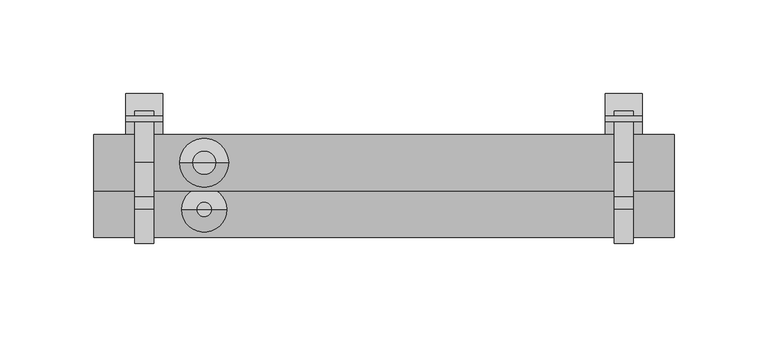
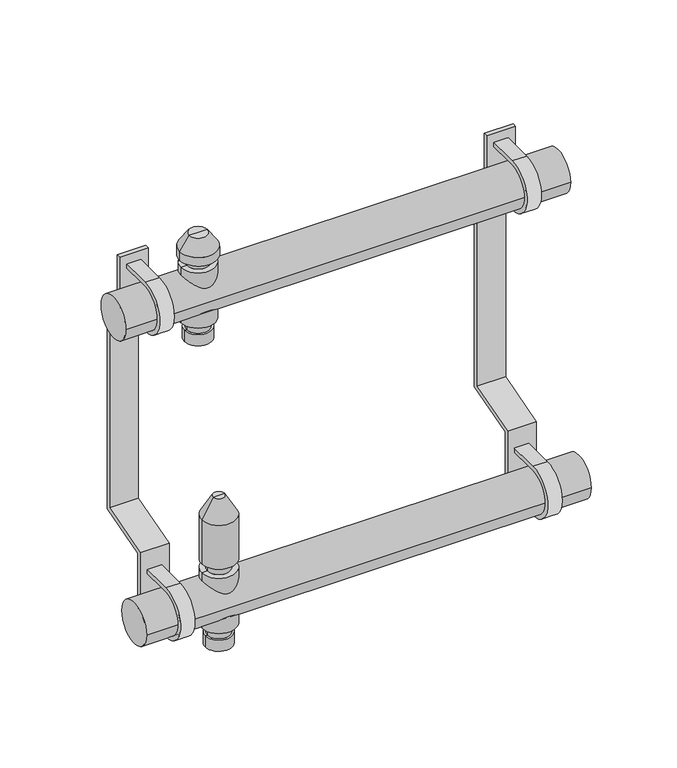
"""IFC4 building model written with IfcOpenShell, lengths in millimetres: valve geometry, PL AT_Manifold_FT-EV : 05 circuits."""

from ifc_helpers import new_model, si_unit, point, frame, frame_2d, origin, origin_2d, place, context, project, spatial, polyline, circle_curve, trimmed, segment, composite_curve, outline, extrude, source, transform, mapped, element, save
from ifc_brep_helpers import plane_surface, cylinder_surface, revolved_surface, advanced_brep


def valve_64aa8ca1(model_context):
    return source(origin(), model_context, "Body", "SolidModel", [
        advanced_brep(
        [(32.5, 25.0, 174.88733), (51.5, 25.0, 174.88733), (42.0, 25.0, 174.88733), (32.5, 25.0, 182.9630354), (51.5, 25.0, 182.9630354), (34.0, 25.0, 182.9630354), (50.0, 25.0, 182.9630354), (34.0, 25.0, 189.669747), (50.0, 25.0, 189.669747), (30.0, 25.0, 189.669747), (54.0, 25.0, 189.669747), (30.0, 25.0, 230.330253), (54.0, 25.0, 230.330253), (34.0, 25.0, 230.330253), (50.0, 25.0, 230.330253), (34.0, 25.0, 236.0474786), (50.0, 25.0, 236.0474786), (29.0, 25.0, 236.0474786), (55.0, 25.0, 236.0474786), (29.0, 25.0, 242.337955), (55.0, 25.0, 242.337955), (35.6551779, 25.0, 251.842534), (48.3448221, 25.0, 251.842534), (42.0, 25.0, 251.842534)],
        [
            (0, 1, circle_curve(frame((42.0, 25.0, 174.88733), z_axis=(0.0, 0.0, -1.0), x_axis=(1.0, 0.0, 0.0)), 9.5)),
            (1, 2),
            (2, 0),
            (1, 0, circle_curve(frame((42.0, 25.0, 174.88733), z_axis=(0.0, 0.0, -1.0), x_axis=(1.0, 0.0, 0.0)), 9.5)),
            (3, 4, circle_curve(frame((42.0, 25.0, 182.9630354), z_axis=(0.0, 0.0, -1.0), x_axis=(1.0, 0.0, 0.0)), 9.5)),
            (4, 1),
            (0, 3),
            (4, 3, circle_curve(frame((42.0, 25.0, 182.9630354), z_axis=(0.0, 0.0, -1.0), x_axis=(1.0, 0.0, 0.0)), 9.5)),
            (5, 6, circle_curve(frame((42.0, 25.0, 182.9630354), z_axis=(0.0, 0.0, -1.0), x_axis=(1.0, 0.0, 0.0)), 8.0)),
            (6, 4),
            (3, 5),
            (6, 5, circle_curve(frame((42.0, 25.0, 182.9630354), z_axis=(0.0, 0.0, -1.0), x_axis=(1.0, 0.0, 0.0)), 8.0)),
            (7, 8, circle_curve(frame((42.0, 25.0, 189.669747), z_axis=(0.0, 0.0, -1.0), x_axis=(1.0, 0.0, 0.0)), 8.0)),
            (8, 6),
            (5, 7),
            (8, 7, circle_curve(frame((42.0, 25.0, 189.669747), z_axis=(0.0, 0.0, -1.0), x_axis=(1.0, 0.0, 0.0)), 8.0)),
            (9, 10, circle_curve(frame((42.0, 25.0, 189.669747), z_axis=(0.0, 0.0, -1.0), x_axis=(1.0, 0.0, 0.0)), 12.0)),
            (10, 8),
            (7, 9),
            (10, 9, circle_curve(frame((42.0, 25.0, 189.669747), z_axis=(0.0, 0.0, -1.0), x_axis=(1.0, 0.0, 0.0)), 12.0)),
            (11, 12, circle_curve(frame((42.0, 25.0, 230.330253), z_axis=(0.0, 0.0, -1.0), x_axis=(1.0, 0.0, 0.0)), 12.0)),
            (12, 10),
            (9, 11),
            (12, 11, circle_curve(frame((42.0, 25.0, 230.330253), z_axis=(0.0, 0.0, -1.0), x_axis=(1.0, 0.0, 0.0)), 12.0)),
            (13, 14, circle_curve(frame((42.0, 25.0, 230.330253), z_axis=(0.0, 0.0, -1.0), x_axis=(1.0, 0.0, 0.0)), 8.0)),
            (14, 12),
            (11, 13),
            (14, 13, circle_curve(frame((42.0, 25.0, 230.330253), z_axis=(0.0, 0.0, -1.0), x_axis=(1.0, 0.0, 0.0)), 8.0)),
            (15, 16, circle_curve(frame((42.0, 25.0, 236.0474786), z_axis=(0.0, 0.0, -1.0), x_axis=(1.0, 0.0, 0.0)), 8.0)),
            (16, 14),
            (13, 15),
            (16, 15, circle_curve(frame((42.0, 25.0, 236.0474786), z_axis=(0.0, 0.0, -1.0), x_axis=(1.0, 0.0, 0.0)), 8.0)),
            (17, 18, circle_curve(frame((42.0, 25.0, 236.0474786), z_axis=(0.0, 0.0, -1.0), x_axis=(1.0, 0.0, 0.0)), 13.0)),
            (18, 16),
            (15, 17),
            (18, 17, circle_curve(frame((42.0, 25.0, 236.0474786), z_axis=(0.0, 0.0, -1.0), x_axis=(1.0, 0.0, 0.0)), 13.0)),
            (19, 20, circle_curve(frame((42.0, 25.0, 242.337955), z_axis=(0.0, 0.0, -1.0), x_axis=(1.0, 0.0, 0.0)), 13.0)),
            (20, 18),
            (17, 19),
            (20, 19, circle_curve(frame((42.0, 25.0, 242.337955), z_axis=(0.0, 0.0, -1.0), x_axis=(1.0, 0.0, 0.0)), 13.0)),
            (21, 22, circle_curve(frame((42.0, 25.0, 251.842534), z_axis=(0.0, 0.0, -1.0), x_axis=(1.0, 0.0, 0.0)), 6.3448221)),
            (22, 20),
            (19, 21),
            (22, 21, circle_curve(frame((42.0, 25.0, 251.842534), z_axis=(0.0, 0.0, -1.0), x_axis=(1.0, 0.0, 0.0)), 6.3448221)),
            (23, 22),
            (21, 23),
        ],
        [
            plane_surface(frame((42.0, 25.0, 174.88733), z_axis=(0.0, 0.0, -1.0), x_axis=(1.0, 0.0, 0.0))),
            cylinder_surface(frame((42.0, 25.0, 247.7026565), z_axis=(0.0, 0.0, 1.0), x_axis=(1.0, 0.0, 0.0)), 9.5),
            plane_surface(frame((42.0, 25.0, 182.9630354), z_axis=(0.0, 0.0, 1.0), x_axis=(1.0, 0.0, 0.0))),
            cylinder_surface(frame((42.0, 25.0, 247.7026565), z_axis=(0.0, 0.0, 1.0), x_axis=(1.0, 0.0, 0.0)), 8.0),
            plane_surface(frame((42.0, 25.0, 189.669747), z_axis=(0.0, 0.0, -1.0), x_axis=(1.0, 0.0, 0.0))),
            cylinder_surface(frame((42.0, 25.0, 247.7026565), z_axis=(0.0, 0.0, 1.0), x_axis=(1.0, 0.0, 0.0)), 12.0),
            plane_surface(frame((42.0, 25.0, 230.330253), z_axis=(0.0, 0.0, 1.0), x_axis=(1.0, 0.0, 0.0))),
            plane_surface(frame((42.0, 25.0, 236.0474786), z_axis=(0.0, 0.0, -1.0), x_axis=(1.0, 0.0, 0.0))),
            cylinder_surface(frame((42.0, 25.0, 247.7026565), z_axis=(0.0, 0.0, 1.0), x_axis=(1.0, 0.0, 0.0)), 13.0),
            revolved_surface(polyline([(55.0, 25.0, 242.337955), (48.3448221, 25.0, 251.842534)]), (42.0, 25.0, 247.7026565), (0.0, 0.0, 1.0)),
            plane_surface(frame((42.0, 25.0, 251.842534), z_axis=(0.0, 0.0, 1.0), x_axis=(1.0, 0.0, 0.0))),
        ],
        [
            (0, [[1, 2, 3]]),
            (0, [[4, -3, -2]]),
            (1, [[5, 6, -1, 7]]),
            (1, [[8, -7, -4, -6]]),
            (2, [[9, 10, -5, 11]]),
            (2, [[12, -11, -8, -10]]),
            (3, [[13, 14, -9, 15]]),
            (3, [[16, -15, -12, -14]]),
            (4, [[17, 18, -13, 19]]),
            (4, [[20, -19, -16, -18]]),
            (5, [[21, 22, -17, 23]]),
            (5, [[24, -23, -20, -22]]),
            (6, [[25, 26, -21, 27]]),
            (6, [[28, -27, -24, -26]]),
            (3, [[29, 30, -25, 31]]),
            (3, [[32, -31, -28, -30]]),
            (7, [[33, 34, -29, 35]]),
            (7, [[36, -35, -32, -34]]),
            (8, [[37, 38, -33, 39]]),
            (8, [[40, -39, -36, -38]]),
            (9, [[41, 42, -37, 43]]),
            (9, [[44, -43, -40, -42]]),
            (10, [[45, -41, 46]]),
            (10, [[-46, -44, -45]]),
        ],
    ),
        advanced_brep(
        [(32.5, 0.0, -35.11267), (51.5, 0.0, -35.11267), (42.0, 0.0, -35.11267), (32.5, 0.0, -27.0369646), (51.5, 0.0, -27.0369646), (34.0, 0.0, -27.0369646), (50.0, 0.0, -27.0369646), (34.0, 0.0, -20.330253), (50.0, 0.0, -20.330253), (30.0, 0.0, -20.330253), (54.0, 0.0, -20.330253), (30.0, 0.0, 20.330253), (54.0, 0.0, 20.330253), (34.0, 0.0, 20.330253), (50.0, 0.0, 20.330253), (34.0, 0.0, 27.0474786), (50.0, 0.0, 27.0474786), (30.0, 0.0, 27.0474786), (54.0, 0.0, 27.0474786), (30.0, 0.0, 59.4084325), (54.0, 0.0, 59.4084325), (38.0, 0.0, 73.264839), (46.0, 0.0, 73.264839), (42.0, 0.0, 73.264839)],
        [
            (0, 1, circle_curve(frame((42.0, 0.0, -35.11267), z_axis=(0.0, 0.0, -1.0), x_axis=(1.0, 0.0, 0.0)), 9.5)),
            (1, 2),
            (2, 0),
            (1, 0, circle_curve(frame((42.0, 0.0, -35.11267), z_axis=(0.0, 0.0, -1.0), x_axis=(1.0, 0.0, 0.0)), 9.5)),
            (3, 4, circle_curve(frame((42.0, 0.0, -27.0369646), z_axis=(0.0, 0.0, -1.0), x_axis=(1.0, 0.0, 0.0)), 9.5)),
            (4, 1),
            (0, 3),
            (4, 3, circle_curve(frame((42.0, 0.0, -27.0369646), z_axis=(0.0, 0.0, -1.0), x_axis=(1.0, 0.0, 0.0)), 9.5)),
            (5, 6, circle_curve(frame((42.0, 0.0, -27.0369646), z_axis=(0.0, 0.0, -1.0), x_axis=(1.0, 0.0, 0.0)), 8.0)),
            (6, 4),
            (3, 5),
            (6, 5, circle_curve(frame((42.0, 0.0, -27.0369646), z_axis=(0.0, 0.0, -1.0), x_axis=(1.0, 0.0, 0.0)), 8.0)),
            (7, 8, circle_curve(frame((42.0, 0.0, -20.330253), z_axis=(0.0, 0.0, -1.0), x_axis=(1.0, 0.0, 0.0)), 8.0)),
            (8, 6),
            (5, 7),
            (8, 7, circle_curve(frame((42.0, 0.0, -20.330253), z_axis=(0.0, 0.0, -1.0), x_axis=(1.0, 0.0, 0.0)), 8.0)),
            (9, 10, circle_curve(frame((42.0, 0.0, -20.330253), z_axis=(0.0, 0.0, -1.0), x_axis=(1.0, 0.0, 0.0)), 12.0)),
            (10, 8),
            (7, 9),
            (10, 9, circle_curve(frame((42.0, 0.0, -20.330253), z_axis=(0.0, 0.0, -1.0), x_axis=(1.0, 0.0, 0.0)), 12.0)),
            (11, 12, circle_curve(frame((42.0, 0.0, 20.330253), z_axis=(0.0, 0.0, -1.0), x_axis=(1.0, 0.0, 0.0)), 12.0)),
            (12, 10),
            (9, 11),
            (12, 11, circle_curve(frame((42.0, 0.0, 20.330253), z_axis=(0.0, 0.0, -1.0), x_axis=(1.0, 0.0, 0.0)), 12.0)),
            (13, 14, circle_curve(frame((42.0, 0.0, 20.330253), z_axis=(0.0, 0.0, -1.0), x_axis=(1.0, 0.0, 0.0)), 8.0)),
            (14, 12),
            (11, 13),
            (14, 13, circle_curve(frame((42.0, 0.0, 20.330253), z_axis=(0.0, 0.0, -1.0), x_axis=(1.0, 0.0, 0.0)), 8.0)),
            (15, 16, circle_curve(frame((42.0, 0.0, 27.0474786), z_axis=(0.0, 0.0, -1.0), x_axis=(1.0, 0.0, 0.0)), 8.0)),
            (16, 14),
            (13, 15),
            (16, 15, circle_curve(frame((42.0, 0.0, 27.0474786), z_axis=(0.0, 0.0, -1.0), x_axis=(1.0, 0.0, 0.0)), 8.0)),
            (17, 18, circle_curve(frame((42.0, 0.0, 27.0474786), z_axis=(0.0, 0.0, -1.0), x_axis=(1.0, 0.0, 0.0)), 12.0)),
            (18, 16),
            (15, 17),
            (18, 17, circle_curve(frame((42.0, 0.0, 27.0474786), z_axis=(0.0, 0.0, -1.0), x_axis=(1.0, 0.0, 0.0)), 12.0)),
            (19, 20, circle_curve(frame((42.0, 0.0, 59.4084325), z_axis=(0.0, 0.0, -1.0), x_axis=(1.0, 0.0, 0.0)), 12.0)),
            (20, 18),
            (17, 19),
            (20, 19, circle_curve(frame((42.0, 0.0, 59.4084325), z_axis=(0.0, 0.0, -1.0), x_axis=(1.0, 0.0, 0.0)), 12.0)),
            (21, 22, circle_curve(frame((42.0, 0.0, 73.264839), z_axis=(0.0, 0.0, -1.0), x_axis=(1.0, 0.0, 0.0)), 4.0)),
            (22, 20),
            (19, 21),
            (22, 21, circle_curve(frame((42.0, 0.0, 73.264839), z_axis=(0.0, 0.0, -1.0), x_axis=(1.0, 0.0, 0.0)), 4.0)),
            (23, 22),
            (21, 23),
        ],
        [
            plane_surface(frame((42.0, 0.0, -35.11267), z_axis=(0.0, 0.0, -1.0), x_axis=(1.0, 0.0, 0.0))),
            cylinder_surface(frame((42.0, 0.0, 58.264839), z_axis=(0.0, 0.0, 1.0), x_axis=(1.0, 0.0, 0.0)), 9.5),
            plane_surface(frame((42.0, 0.0, -27.0369646), z_axis=(0.0, 0.0, 1.0), x_axis=(1.0, 0.0, 0.0))),
            cylinder_surface(frame((42.0, 0.0, 58.264839), z_axis=(0.0, 0.0, 1.0), x_axis=(1.0, 0.0, 0.0)), 8.0),
            plane_surface(frame((42.0, 0.0, -20.330253), z_axis=(0.0, 0.0, -1.0), x_axis=(1.0, 0.0, 0.0))),
            cylinder_surface(frame((42.0, 0.0, 58.264839), z_axis=(0.0, 0.0, 1.0), x_axis=(1.0, 0.0, 0.0)), 12.0),
            plane_surface(frame((42.0, 0.0, 20.330253), z_axis=(0.0, 0.0, 1.0), x_axis=(1.0, 0.0, 0.0))),
            plane_surface(frame((42.0, 0.0, 27.0474786), z_axis=(0.0, 0.0, -1.0), x_axis=(1.0, 0.0, 0.0))),
            revolved_surface(polyline([(54.0, 0.0, 59.4084325), (46.0, 0.0, 73.264839)]), (42.0, 0.0, 58.264839), (0.0, 0.0, 1.0)),
            plane_surface(frame((42.0, 0.0, 73.264839), z_axis=(0.0, 0.0, 1.0), x_axis=(1.0, 0.0, 0.0))),
        ],
        [
            (0, [[1, 2, 3]]),
            (0, [[4, -3, -2]]),
            (1, [[5, 6, -1, 7]]),
            (1, [[8, -7, -4, -6]]),
            (2, [[9, 10, -5, 11]]),
            (2, [[12, -11, -8, -10]]),
            (3, [[13, 14, -9, 15]]),
            (3, [[16, -15, -12, -14]]),
            (4, [[17, 18, -13, 19]]),
            (4, [[20, -19, -16, -18]]),
            (5, [[21, 22, -17, 23]]),
            (5, [[24, -23, -20, -22]]),
            (6, [[25, 26, -21, 27]]),
            (6, [[28, -27, -24, -26]]),
            (3, [[29, 30, -25, 31]]),
            (3, [[32, -31, -28, -30]]),
            (7, [[33, 34, -29, 35]]),
            (7, [[36, -35, -32, -34]]),
            (5, [[37, 38, -33, 39]]),
            (5, [[40, -39, -36, -38]]),
            (8, [[41, 42, -37, 43]]),
            (8, [[44, -43, -40, -42]]),
            (9, [[45, -41, 46]]),
            (9, [[-46, -44, -45]]),
        ],
    ),
        extrude(outline(composite_curve([segment(trimmed(circle_curve(origin_2d(), 15.0), [point((0.0, 15.0))], [point((0.0, -15.0))], True, "CARTESIAN"), True, "CONTINUOUS"), segment(polyline([(0.0, -15.0), (27.6751284, -15.0), (27.6751284, -18.0), (0.0, -18.0)]), True, "CONTINUOUS"), segment(trimmed(circle_curve(origin_2d(), 18.0), [point((0.0, -18.0))], [point((0.0, 18.0))], False, "CARTESIAN"), True, "CONTINUOUS"), segment(polyline([(0.0, 18.0), (27.6751284, 18.0), (27.6751284, 15.0), (0.0, 15.0)]), True, "CONTINUOUS")], self_intersect=False)), frame((261.0, 0.0, 0.0), z_axis=(1.0, 0.0, 0.0), x_axis=(0.0, 1.0, 0.0)), (0.0, 0.0, 1.0), 10.0),
        extrude(outline(composite_curve([segment(trimmed(circle_curve(frame_2d((25.0, 210.0)), 15.0), [point((25.0, 225.0))], [point((25.0, 195.0))], True, "CARTESIAN"), True, "CONTINUOUS"), segment(polyline([(25.0, 195.0), (52.6751284, 195.0), (52.6751284, 192.0), (25.0, 192.0)]), True, "CONTINUOUS"), segment(trimmed(circle_curve(frame_2d((25.0, 210.0)), 18.0), [point((25.0, 192.0))], [point((25.0, 228.0))], False, "CARTESIAN"), True, "CONTINUOUS"), segment(polyline([(25.0, 228.0), (52.6751284, 228.0), (52.6751284, 225.0), (25.0, 225.0)]), True, "CONTINUOUS")], self_intersect=False)), frame((261.0, 0.0, 0.0), z_axis=(1.0, 0.0, 0.0), x_axis=(0.0, 1.0, 0.0)), (0.0, 0.0, 1.0), 10.0),
        extrude(outline(polyline([(62.0, 182.8840762), (62.0, 40.6095793), (25.0, 30.0), (25.0, -30.0), (22.0, -30.0), (22.0, 32.2606622), (59.0, 42.8702414), (59.0, 180.3667773), (47.0, 182.4827011), (47.0, 235.0), (50.0, 235.0), (50.0, 185.0), (62.0, 182.8840762)])), frame((256.0, 0.0, 0.0), z_axis=(1.0, 0.0, 0.0), x_axis=(0.0, 1.0, 0.0)), (0.0, 0.0, 1.0), 20.0),
        extrude(outline(composite_curve([segment(trimmed(circle_curve(origin_2d(), 15.0), [point((0.0, 15.0))], [point((0.0, -15.0))], True, "CARTESIAN"), True, "CONTINUOUS"), segment(polyline([(0.0, -15.0), (27.6751284, -15.0), (27.6751284, -18.0), (0.0, -18.0)]), True, "CONTINUOUS"), segment(trimmed(circle_curve(origin_2d(), 18.0), [point((0.0, -18.0))], [point((0.0, 18.0))], False, "CARTESIAN"), True, "CONTINUOUS"), segment(polyline([(0.0, 18.0), (27.6751284, 18.0), (27.6751284, 15.0), (0.0, 15.0)]), True, "CONTINUOUS")], self_intersect=False)), frame((5.0, 0.0, 0.0), z_axis=(1.0, 0.0, 0.0), x_axis=(0.0, 1.0, 0.0)), (0.0, 0.0, 1.0), 10.0),
        extrude(outline(composite_curve([segment(trimmed(circle_curve(frame_2d((25.0, 210.0)), 15.0), [point((25.0, 225.0))], [point((25.0, 195.0))], True, "CARTESIAN"), True, "CONTINUOUS"), segment(polyline([(25.0, 195.0), (52.6751284, 195.0), (52.6751284, 192.0), (25.0, 192.0)]), True, "CONTINUOUS"), segment(trimmed(circle_curve(frame_2d((25.0, 210.0)), 18.0), [point((25.0, 192.0))], [point((25.0, 228.0))], False, "CARTESIAN"), True, "CONTINUOUS"), segment(polyline([(25.0, 228.0), (52.6751284, 228.0), (52.6751284, 225.0), (25.0, 225.0)]), True, "CONTINUOUS")], self_intersect=False)), frame((5.0, 0.0, 0.0), z_axis=(1.0, 0.0, 0.0), x_axis=(0.0, 1.0, 0.0)), (0.0, 0.0, 1.0), 10.0),
        extrude(outline(polyline([(62.0, 182.8840762), (62.0, 40.6095793), (25.0, 30.0), (25.0, -30.0), (22.0, -30.0), (22.0, 32.2606622), (59.0, 42.8702414), (59.0, 180.3667773), (47.0, 182.4827011), (47.0, 235.0), (50.0, 235.0), (50.0, 185.0), (62.0, 182.8840762)])), frame((0.0, 0.0, 0.0), z_axis=(1.0, 0.0, 0.0), x_axis=(0.0, 1.0, 0.0)), (0.0, 0.0, 1.0), 20.0),
        extrude(outline(composite_curve([segment(trimmed(circle_curve(origin_2d(), 15.0), [point((15.0, 0.0))], [point((-15.0, 0.0))], False, "CARTESIAN"), True, "CONTINUOUS"), segment(trimmed(circle_curve(origin_2d(), 15.0), [point((-15.0, 0.0))], [point((15.0, 0.0))], False, "CARTESIAN"), True, "CONTINUOUS")], self_intersect=False)), frame((-17.0, 0.0, 0.0), z_axis=(1.0, 0.0, 0.0), x_axis=(0.0, 1.0, 0.0)), (0.0, 0.0, 1.0), 310.0),
        extrude(outline(composite_curve([segment(trimmed(circle_curve(frame_2d((25.0, 210.0)), 15.0), [point((40.0, 210.0))], [point((10.0, 210.0))], False, "CARTESIAN"), True, "CONTINUOUS"), segment(trimmed(circle_curve(frame_2d((25.0, 210.0)), 15.0), [point((10.0, 210.0))], [point((40.0, 210.0))], False, "CARTESIAN"), True, "CONTINUOUS")], self_intersect=False)), frame((-17.0, 0.0, 0.0), z_axis=(1.0, 0.0, 0.0), x_axis=(0.0, 1.0, 0.0)), (0.0, 0.0, 1.0), 310.0),
    ])


if __name__ == "__main__":
    model = new_model("IFC4")
    model_context = context("Model", 3, world=origin())
    ifc_project = project(units=[si_unit("LENGTHUNIT", "METRE", prefix="MILLI")], contexts=[model_context])
    site = spatial("IfcSite", under=ifc_project)
    building = spatial("IfcBuilding", under=site)
    placement = place(None, origin())
    valve_shape = valve_64aa8ca1(model_context)
    element("IfcValve", 1, ObjectType="PL AT_Manifold_FT-EV : 05 circuits", at=placement, inside=building, context=model_context, shape_type="MappedRepresentation", body=[
        mapped(valve_shape, transform((0.0, 0.0, 0.0), x_axis=(1.0, 0.0, 0.0), y_axis=(0.0, 1.0, 0.0), z_axis=(0.0, 0.0, 1.0))),
    ])
    save(model, "model.ifc")
